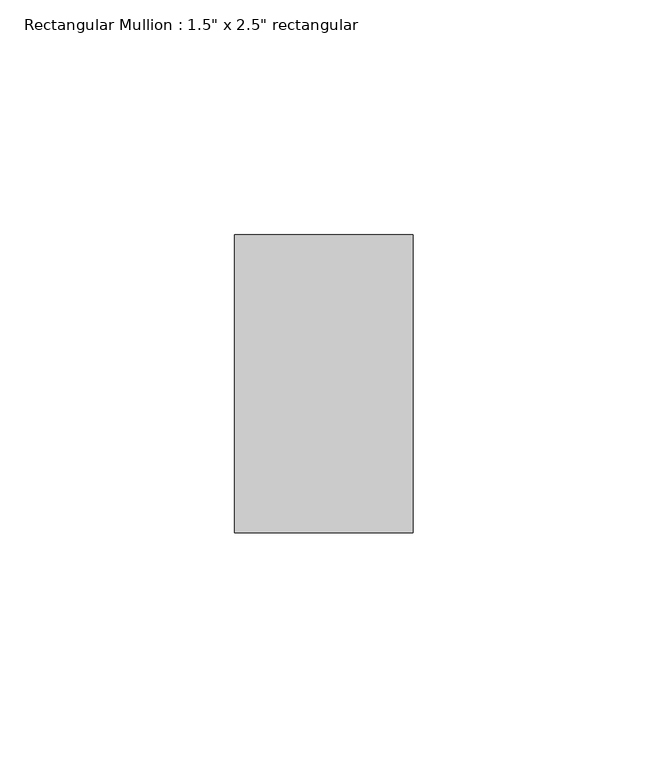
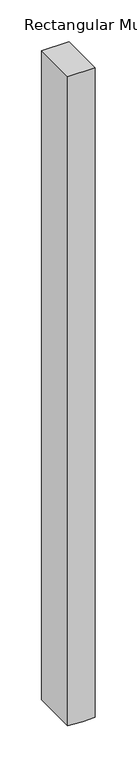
"""IFC4 building model written with IfcOpenShell, lengths in millimetres: member geometry."""

from ifc_helpers import new_model, si_unit, frame, origin, place, context, project, spatial, polyline, outline, extrude, source, transform, mapped, element, save


def member_a296c6ee(model_context):
    return source(origin(), model_context, "Body", "SweptSolid", [
        extrude(outline(polyline([(0.0, 19.05), (0.0, -19.05), (-952.3915583, -19.05), (-953.234972, 1.3776962), (-953.2724866, 19.05), (0.0, 19.05)])), frame((0.0, -31.75, 0.0), z_axis=(0.0, 1.0, 0.0), x_axis=(0.0, 0.0, 1.0)), (0.0, 0.0, 1.0), 63.5),
    ])


if __name__ == "__main__":
    model = new_model("IFC4")
    model_context = context("Model", 3, world=origin())
    ifc_project = project(units=[si_unit("LENGTHUNIT", "METRE", prefix="MILLI")], contexts=[model_context])
    site = spatial("IfcSite", under=ifc_project)
    building = spatial("IfcBuilding", under=site)
    placement = place(None, origin())
    member_shape = member_a296c6ee(model_context)
    element("IfcMember", 1, ObjectType="Rectangular Mullion : 1.5\" x 2.5\" rectangular", at=placement, inside=building, context=model_context, shape_type="MappedRepresentation", body=[
        mapped(member_shape, transform((0.0, 0.0, 0.0), x_axis=(1.0, 0.0, 0.0), y_axis=(0.0, 1.0, 0.0), z_axis=(0.0, 0.0, 1.0))),
    ])
    save(model, "model.ifc")
